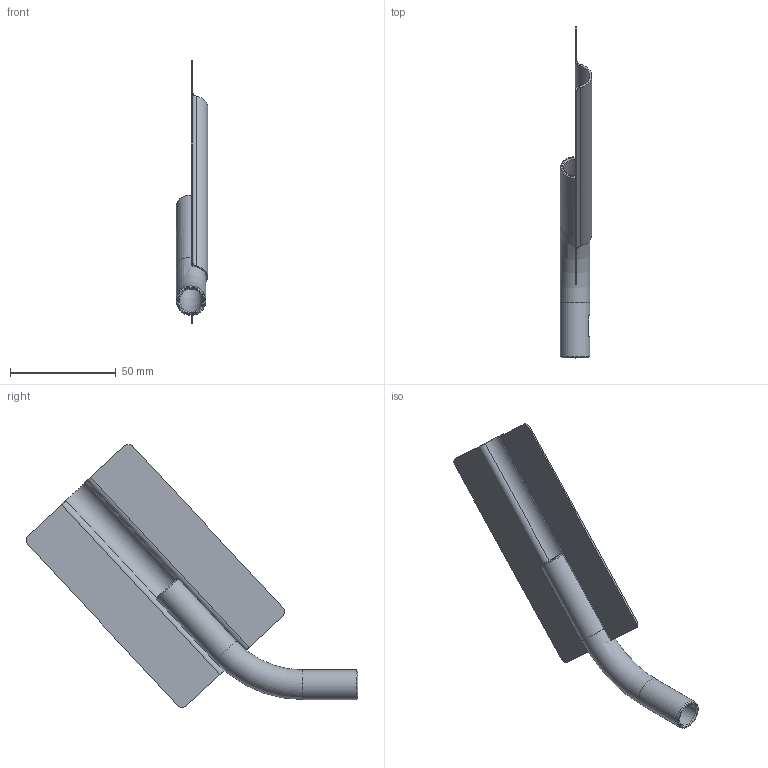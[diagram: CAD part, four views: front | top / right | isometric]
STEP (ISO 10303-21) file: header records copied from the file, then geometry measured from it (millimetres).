
FILE_DESCRIPTION(/* description */ (''),/* implementation_level */ '2;1');
FILE_NAME(/* name */ 'AC15-INOX.stp',/* time_stamp */ '2024-03-22T11:09:21+01:00',/* author */ ('filippo.guidetti'),/* organization */ (''),/* preprocessor_version */ 'ST-DEVELOPER v20',/* originating_system */ 'Autodesk Inventor 2024',/* authorisation */ '');
FILE_SCHEMA (('AUTOMOTIVE_DESIGN { 1 0 10303 214 3 1 1 }'));
Length unit declared in the file: millimetre
Products named in the file (1): AC15-INOX
Bounding box: 14.87 x 156.97 x 124.34 mm (x, y, z)
Volume: 13619.9 mm3; surface area: 23610.1 mm2
Topology: 1 solids, 1 shells, 36 faces, 98 edges, 64 vertices
Faces by surface type: cylinder 16, plane 14, cone 4, torus 2
Full cylindrical faces by diameter (mm): 5.5 x1, 11 x2, 14 x1
Entity records: 1321 total; most frequent: CARTESIAN_POINT 275, DIRECTION 211, ORIENTED_EDGE 196, EDGE_CURVE 98, AXIS2_PLACEMENT_3D 83, VERTEX_POINT 64, CIRCLE 46, LINE 45
